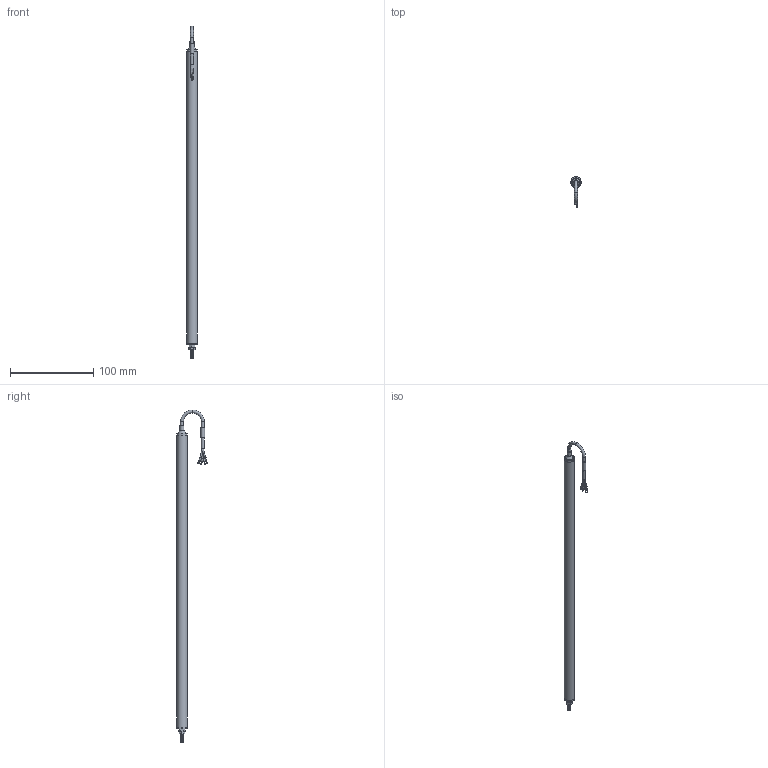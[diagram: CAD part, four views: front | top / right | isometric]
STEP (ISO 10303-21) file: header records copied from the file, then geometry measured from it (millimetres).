
FILE_DESCRIPTION(/* description */ (''),/* implementation_level */ '2;1');
FILE_NAME(/* name */ 'LPPS-12-300-A Assembly (wrapped).step',/* time_stamp */ '2023-10-10T09:59:36-04:00',/* author */ ('TSC_Grant'),/* organization */ (''),/* preprocessor_version */ 'ST-DEVELOPER v19.2',/* originating_system */ 'Autodesk Inventor 2024',/* authorisation */ '');
FILE_SCHEMA (('AUTOMOTIVE_DESIGN { 1 0 10303 214 3 1 1 }'));
Length unit declared in the file: inch
Products named in the file (4): LPPS-12-010-A Assembly (wrapped); LPPS-12-010-A Body (wrapped); LPPS-12-010-A Assembly_Simplify_1; Wire
Assembly tree (3 placements, depth 2):
  LPPS-12-010-A Assembly (wrapped)
    LPPS-12-010-A Body (wrapped)
    LPPS-12-010-A Assembly_Simplify_1
    Wire
Bounding box: 12.7 x 36.8 x 399.24 mm (x, y, z)
Volume: 45808.1 mm3; surface area: 25033.8 mm2
Topology: 13 solids, 13 shells, 133 faces, 286 edges, 190 vertices
Faces by surface type: plane 75, cylinder 44, bspline 8, torus 5, cone 1
Full cylindrical faces by diameter (mm): 1.016 x3, 1.27 x1, 1.524 x3, 1.651 x2, 3.632 x6, 3.937 x8, 4.191 x1, 4.445 x1, 4.826 x1, 12.7 x3
Entity records: 5483 total; most frequent: CARTESIAN_POINT 2222, DIRECTION 619, ORIENTED_EDGE 572, EDGE_CURVE 286, AXIS2_PLACEMENT_3D 236, VERTEX_POINT 190, EDGE_LOOP 150, LINE 147
